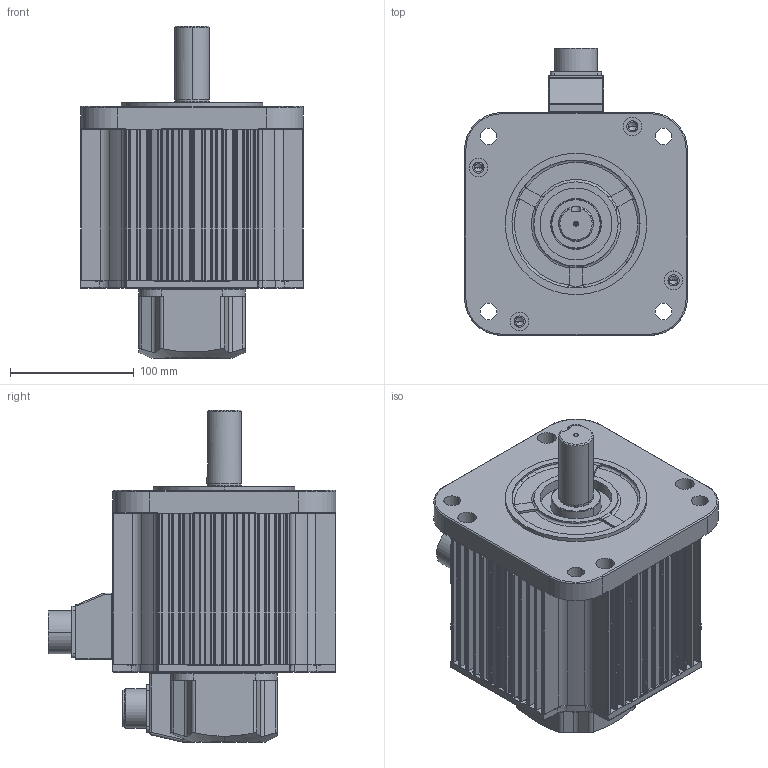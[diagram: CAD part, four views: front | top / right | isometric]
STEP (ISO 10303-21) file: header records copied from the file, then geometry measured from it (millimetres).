
FILE_DESCRIPTION (( 'STEP AP214' ), '1' );
FILE_NAME ('KAND-40B¡à1N2.STEP', '2026-09-12T03:01:14', ( '' ), ( '' ), 'SwSTEP 2.0', 'SolidWorks 2023', '' );
FILE_SCHEMA (( 'AUTOMOTIVE_DESIGN' ));
Length unit declared in the file: millimetre
Products named in the file (11): MS3102A 22_표준; 1005052200 ENCODER COVER; □180-121.5mm; 10050907 RUBBER SEAL_MS22 or MS24; Ø28-KEY8X51; □180 FLANGE; MS3102A 20-29P; □180 BRACKET_BR; KAND-40B□1N2; 10050523 GASKET_돌출형; 10050908 CONNECTOR BOX_MS22 or MS24
Assembly tree (10 placements, depth 2):
  KAND-40B□1N2
    □180-121.5mm
    □180 FLANGE
    □180 BRACKET_BR
    1005052200 ENCODER COVER
    10050523 GASKET_돌출형
    MS3102A 20-29P
    Ø28-KEY8X51
    10050907 RUBBER SEAL_MS22 or MS24
    10050908 CONNECTOR BOX_MS22 or MS24
    MS3102A 22_표준
Bounding box: 180 x 232.05 x 268.2 mm (x, y, z)
Volume: 1397526.7 mm3; surface area: 493284.9 mm2
Topology: 10 solids, 10 shells, 1746 faces, 4794 edges, 3122 vertices
Faces by surface type: cylinder 912, plane 605, torus 122, cone 70, bspline 35, sphere 2
Entity records: 59069 total; most frequent: CARTESIAN_POINT 13286, DIRECTION 9926, ORIENTED_EDGE 9516, EDGE_CURVE 4758, AXIS2_PLACEMENT_3D 3818, VERTEX_POINT 3122, VECTOR 2290, LINE 2290
